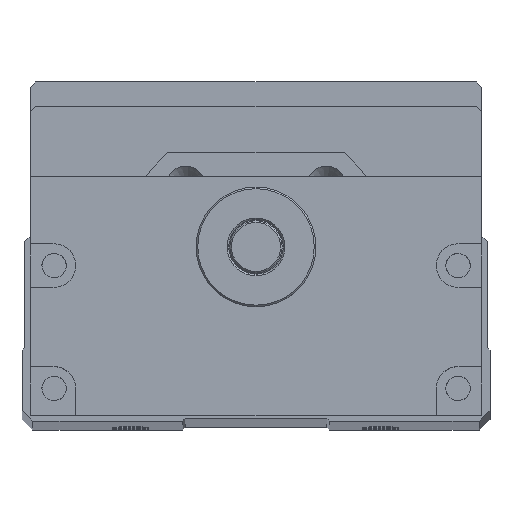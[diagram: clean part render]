
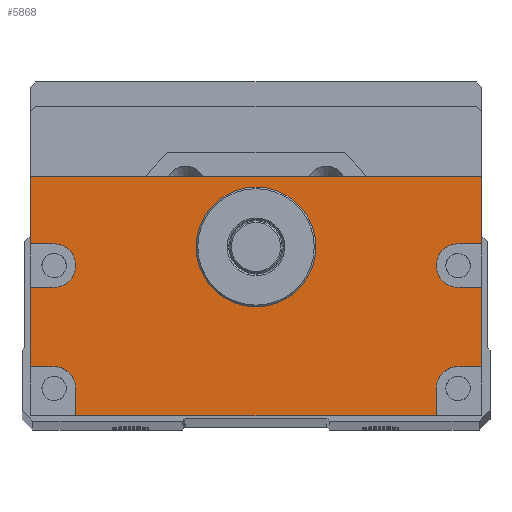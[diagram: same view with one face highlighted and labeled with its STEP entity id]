
A CAD part, top view. The second image highlights one B-rep face of the part: STEP entity #5868.
In plain terms, the highlighted planar face has unit normal (0, 0, 1).
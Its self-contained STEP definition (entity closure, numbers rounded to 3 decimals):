
#5868=ADVANCED_FACE('',(#8275,#8276),#6395,.T.);
#6395=PLANE('',#15892);
#6804=LINE('',#29088,#7541);
#6806=LINE('',#29092,#7543);
#6807=LINE('',#29095,#7544);
#6808=LINE('',#29097,#7545);
#6809=LINE('',#29101,#7546);
#6810=LINE('',#29103,#7547);
#6811=LINE('',#29104,#7548);
#6812=LINE('',#29106,#7549);
#6813=LINE('',#29110,#7550);
#6814=LINE('',#29112,#7551);
#6815=LINE('',#29114,#7552);
#6816=LINE('',#29118,#7553);
#6817=LINE('',#29120,#7554);
#6818=LINE('',#29122,#7555);
#7541=VECTOR('',#17482,1.);
#7543=VECTOR('',#17486,1.);
#7544=VECTOR('',#17487,1.);
#7545=VECTOR('',#17488,1.);
#7546=VECTOR('',#17491,1.);
#7547=VECTOR('',#17492,1.);
#7548=VECTOR('',#17493,1.);
#7549=VECTOR('',#17494,1.);
#7550=VECTOR('',#17497,1.);
#7551=VECTOR('',#17498,1.);
#7552=VECTOR('',#17499,1.);
#7553=VECTOR('',#17502,1.);
#7554=VECTOR('',#17503,1.);
#7555=VECTOR('',#17504,1.);
#8275=FACE_BOUND('',#8930,.T.);
#8276=FACE_BOUND('',#8931,.T.);
#8930=EDGE_LOOP('',(#10492,#10493,#10494,#10495,#10496,#10497,#10498,#10499,
#10500,#10501,#10502,#10503,#10504,#10505,#10506,#10507,#10508,#10509));
#8931=EDGE_LOOP('',(#10510));
#10492=ORIENTED_EDGE('',*,*,#14082,.F.);
#10493=ORIENTED_EDGE('',*,*,#14083,.T.);
#10494=ORIENTED_EDGE('',*,*,#14084,.F.);
#10495=ORIENTED_EDGE('',*,*,#14085,.F.);
#10496=ORIENTED_EDGE('',*,*,#14086,.F.);
#10497=ORIENTED_EDGE('',*,*,#14087,.T.);
#10498=ORIENTED_EDGE('',*,*,#14080,.T.);
#10499=ORIENTED_EDGE('',*,*,#14088,.T.);
#10500=ORIENTED_EDGE('',*,*,#14089,.F.);
#10501=ORIENTED_EDGE('',*,*,#14090,.F.);
#10502=ORIENTED_EDGE('',*,*,#14091,.F.);
#10503=ORIENTED_EDGE('',*,*,#14092,.T.);
#10504=ORIENTED_EDGE('',*,*,#14093,.F.);
#10505=ORIENTED_EDGE('',*,*,#14094,.F.);
#10506=ORIENTED_EDGE('',*,*,#14095,.F.);
#10507=ORIENTED_EDGE('',*,*,#14096,.T.);
#10508=ORIENTED_EDGE('',*,*,#14097,.F.);
#10509=ORIENTED_EDGE('',*,*,#14098,.F.);
#10510=ORIENTED_EDGE('',*,*,#14066,.T.);
#12865=VERTEX_POINT('',#29059);
#12878=VERTEX_POINT('',#29087);
#12879=VERTEX_POINT('',#29089);
#12880=VERTEX_POINT('',#29093);
#12881=VERTEX_POINT('',#29094);
#12882=VERTEX_POINT('',#29096);
#12883=VERTEX_POINT('',#29098);
#12884=VERTEX_POINT('',#29100);
#12885=VERTEX_POINT('',#29102);
#12886=VERTEX_POINT('',#29105);
#12887=VERTEX_POINT('',#29107);
#12888=VERTEX_POINT('',#29109);
#12889=VERTEX_POINT('',#29111);
#12890=VERTEX_POINT('',#29113);
#12891=VERTEX_POINT('',#29115);
#12892=VERTEX_POINT('',#29117);
#12893=VERTEX_POINT('',#29119);
#12894=VERTEX_POINT('',#29121);
#12895=VERTEX_POINT('',#29123);
#14066=EDGE_CURVE('',#12865,#12865,#15242,.T.);
#14080=EDGE_CURVE('',#12879,#12878,#6804,.T.);
#14082=EDGE_CURVE('',#12880,#12881,#6806,.T.);
#14083=EDGE_CURVE('',#12880,#12882,#6807,.T.);
#14084=EDGE_CURVE('',#12883,#12882,#6808,.T.);
#14085=EDGE_CURVE('',#12884,#12883,#15251,.T.);
#14086=EDGE_CURVE('',#12885,#12884,#6809,.T.);
#14087=EDGE_CURVE('',#12885,#12879,#6810,.T.);
#14088=EDGE_CURVE('',#12878,#12886,#6811,.T.);
#14089=EDGE_CURVE('',#12887,#12886,#6812,.T.);
#14090=EDGE_CURVE('',#12888,#12887,#15252,.T.);
#14091=EDGE_CURVE('',#12889,#12888,#6813,.T.);
#14092=EDGE_CURVE('',#12889,#12890,#6814,.T.);
#14093=EDGE_CURVE('',#12891,#12890,#6815,.T.);
#14094=EDGE_CURVE('',#12892,#12891,#15253,.T.);
#14095=EDGE_CURVE('',#12893,#12892,#6816,.T.);
#14096=EDGE_CURVE('',#12893,#12894,#6817,.T.);
#14097=EDGE_CURVE('',#12895,#12894,#6818,.T.);
#14098=EDGE_CURVE('',#12881,#12895,#15254,.T.);
#15242=CIRCLE('',#15876,11.);
#15251=CIRCLE('',#15888,4.);
#15252=CIRCLE('',#15889,4.);
#15253=CIRCLE('',#15890,4.);
#15254=CIRCLE('',#15891,4.);
#15876=AXIS2_PLACEMENT_3D('',#29058,#17455,#17456);
#15888=AXIS2_PLACEMENT_3D('',#29099,#17489,#17490);
#15889=AXIS2_PLACEMENT_3D('',#29108,#17495,#17496);
#15890=AXIS2_PLACEMENT_3D('',#29116,#17500,#17501);
#15891=AXIS2_PLACEMENT_3D('',#29124,#17505,#17506);
#15892=AXIS2_PLACEMENT_3D('',#29125,#17507,#17508);
#17455=DIRECTION('',(0.,0.,-1.));
#17456=DIRECTION('',(1.,0.,0.));
#17482=DIRECTION('',(-1.,0.,0.));
#17486=DIRECTION('',(-1.,0.,0.));
#17487=DIRECTION('',(0.,1.,0.));
#17488=DIRECTION('',(1.,0.,0.));
#17489=DIRECTION('',(0.,0.,1.));
#17490=DIRECTION('',(1.,0.,0.));
#17491=DIRECTION('',(-1.,0.,0.));
#17492=DIRECTION('',(0.,1.,0.));
#17493=DIRECTION('',(0.,-1.,0.));
#17494=DIRECTION('',(-1.,0.,0.));
#17495=DIRECTION('',(0.,0.,1.));
#17496=DIRECTION('',(1.,0.,0.));
#17497=DIRECTION('',(1.,0.,0.));
#17498=DIRECTION('',(0.,-1.,0.));
#17499=DIRECTION('',(-1.,0.,0.));
#17500=DIRECTION('',(0.,0.,1.));
#17501=DIRECTION('',(1.,0.,0.));
#17502=DIRECTION('',(0.,1.,0.));
#17503=DIRECTION('',(1.,0.,0.));
#17504=DIRECTION('',(0.,-1.,0.));
#17505=DIRECTION('',(0.,0.,1.));
#17506=DIRECTION('',(1.,0.,0.));
#17507=DIRECTION('',(0.,0.,1.));
#17508=DIRECTION('',(-1.,0.,0.));
#29058=CARTESIAN_POINT('',(0.,0.,782.5));
#29059=CARTESIAN_POINT('',(11.,0.,782.5));
#29087=CARTESIAN_POINT('',(-41.5,13.,782.5));
#29088=CARTESIAN_POINT('',(41.5,13.,782.5));
#29089=CARTESIAN_POINT('',(41.5,13.,782.5));
#29092=CARTESIAN_POINT('',(41.5,-22.,782.5));
#29093=CARTESIAN_POINT('',(41.5,-22.,782.5));
#29094=CARTESIAN_POINT('',(37.115,-22.,782.5));
#29095=CARTESIAN_POINT('',(41.5,-31.,782.5));
#29096=CARTESIAN_POINT('',(41.5,-7.431,782.5));
#29097=CARTESIAN_POINT('',(41.5,-7.431,782.5));
#29098=CARTESIAN_POINT('',(37.115,-7.431,782.5));
#29099=CARTESIAN_POINT('',(37.115,-3.431,782.5));
#29100=CARTESIAN_POINT('',(37.115,0.569,782.5));
#29101=CARTESIAN_POINT('',(41.5,0.569,782.5));
#29102=CARTESIAN_POINT('',(41.5,0.569,782.5));
#29103=CARTESIAN_POINT('',(41.5,-31.,782.5));
#29104=CARTESIAN_POINT('',(-41.5,27.5,782.5));
#29105=CARTESIAN_POINT('',(-41.5,0.569,782.5));
#29106=CARTESIAN_POINT('',(41.5,0.569,782.5));
#29107=CARTESIAN_POINT('',(-37.115,0.569,782.5));
#29108=CARTESIAN_POINT('',(-37.115,-3.431,782.5));
#29109=CARTESIAN_POINT('',(-37.115,-7.431,782.5));
#29110=CARTESIAN_POINT('',(41.5,-7.431,782.5));
#29111=CARTESIAN_POINT('',(-41.5,-7.431,782.5));
#29112=CARTESIAN_POINT('',(-41.5,27.5,782.5));
#29113=CARTESIAN_POINT('',(-41.5,-22.,782.5));
#29114=CARTESIAN_POINT('',(41.5,-22.,782.5));
#29115=CARTESIAN_POINT('',(-37.115,-22.,782.5));
#29116=CARTESIAN_POINT('',(-37.115,-26.,782.5));
#29117=CARTESIAN_POINT('',(-33.115,-26.,782.5));
#29118=CARTESIAN_POINT('',(-33.115,-31.,782.5));
#29119=CARTESIAN_POINT('',(-33.115,-31.,782.5));
#29120=CARTESIAN_POINT('',(-41.5,-31.,782.5));
#29121=CARTESIAN_POINT('',(33.115,-31.,782.5));
#29122=CARTESIAN_POINT('',(33.115,-31.,782.5));
#29123=CARTESIAN_POINT('',(33.115,-26.,782.5));
#29124=CARTESIAN_POINT('',(37.115,-26.,782.5));
#29125=CARTESIAN_POINT('',(41.5,-31.,782.5));
